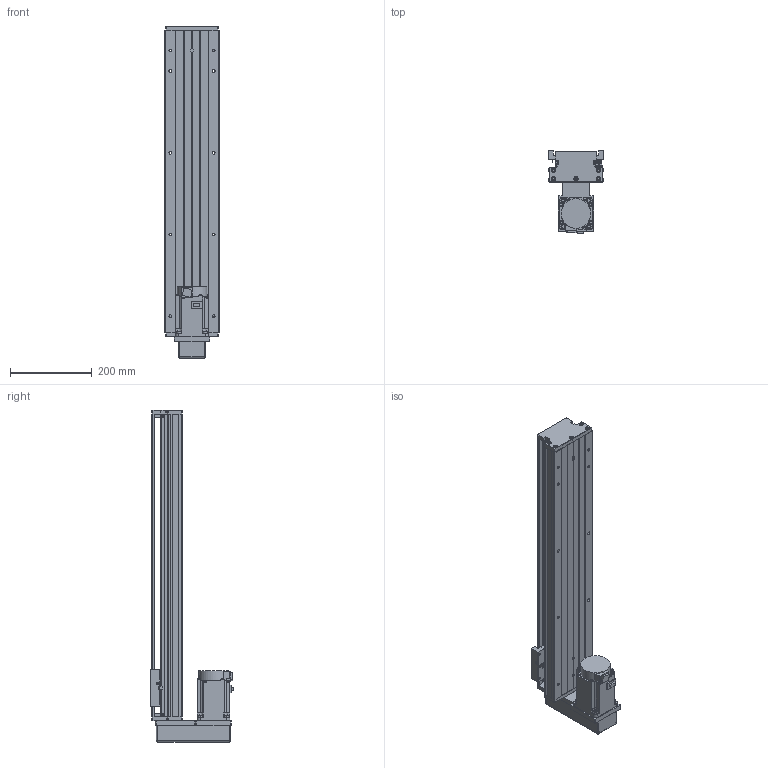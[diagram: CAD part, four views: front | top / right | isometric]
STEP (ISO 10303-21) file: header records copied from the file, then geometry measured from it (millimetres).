
FILE_DESCRIPTION (( 'STEP AP203' ), '1' );
FILE_NAME ('KTH130-600-BM-M75-C4.step', '2023-06-30T04:38:08', ( '微软用户' ), ( '微软中国' ), 'SwSTEP 2.0', 'SolidWorks 2020', '' );
FILE_SCHEMA (( 'CONFIG_CONTROL_DESIGN' ));
Length unit declared in the file: millimetre
Products named in the file (18): KTH130-600-BM-M75-C4; GB1155-6X6; GBT77-2000 M3×3; GBT70.1 M5℅16; す晦芛蹟隊 M3℅5; GBT 70.2-M3¡Á5_M3¡Á6; GBT 70.3-M3℅8; GTH14-001_600; CTHA60-017; hg-kn73j_-s100; KTH130-002_KTH130-002; EE_SX911P_R; CTHA86-015-3_CTHA86-015-4; KTH130-004; CTHA60-016; CTHA86-035; KTH130-005; GBT 70.1-M3℅5
Assembly tree (49 placements, depth 2):
  KTH130-600-BM-M75-C4
    GTH14-001_600
    KTH130-002_KTH130-002
    KTH130-004
    KTH130-005
    GB1155-6X6  x2
    GBT70.1 M5℅16  x10
    GBT 70.2-M3¡Á5_M3¡Á6  x4
    CTHA60-017  x3
    EE_SX911P_R  x3
    CTHA60-016  x2
    GBT 70.1-M3℅5  x6
    GBT77-2000 M3×3  x6
    す晦芛蹟隊 M3℅5  x2
    GBT 70.3-M3℅8  x4
    hg-kn73j_-s100
    CTHA86-015-3_CTHA86-015-4
    CTHA86-035
Bounding box: 135 x 202.8 x 812 mm (x, y, z)
Volume: 5463831.7 mm3; surface area: 788348.3 mm2
Topology: 52 solids, 52 shells, 2192 faces, 5316 edges, 3327 vertices
Faces by surface type: plane 1208, cylinder 630, cone 238, torus 100, sphere 16
Entity records: 39945 total; most frequent: CARTESIAN_POINT 6722, DIRECTION 6577, ORIENTED_EDGE 6136, EDGE_CURVE 3068, AXIS2_PLACEMENT_3D 2300, LINE 1977, VECTOR 1977, VERTEX_POINT 1961
